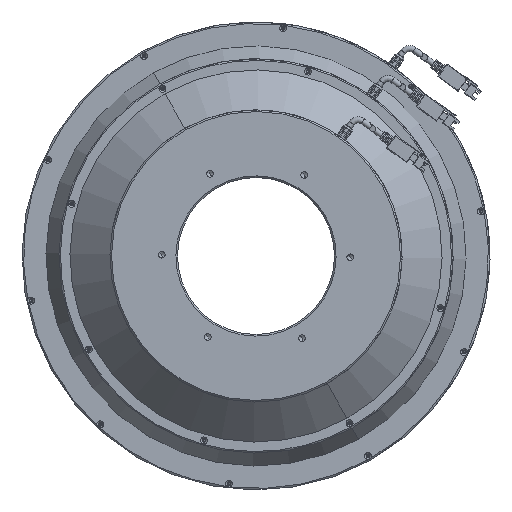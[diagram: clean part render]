
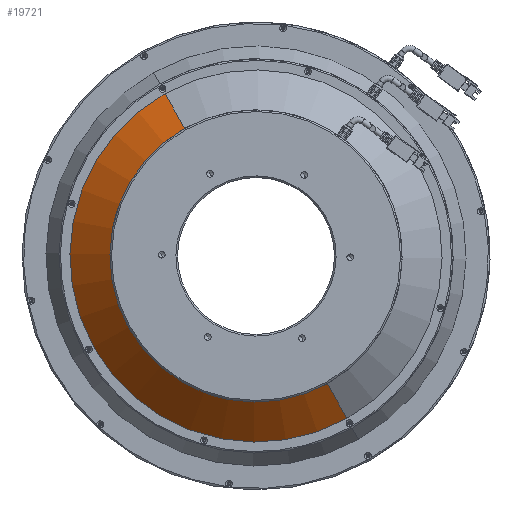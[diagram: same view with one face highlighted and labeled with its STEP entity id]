
A CAD part, front view. The second image highlights one B-rep face of the part: STEP entity #19721.
In plain terms, the highlighted conical face has half-angle 45 degrees and reference radius 93 mm.
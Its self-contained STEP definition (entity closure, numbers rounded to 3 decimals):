
#12 = VECTOR ( 'NONE', #15000, 1000. ) ;
#181 = AXIS2_PLACEMENT_3D ( 'NONE', #3056, #17143, #5074 ) ;
#411 = CARTESIAN_POINT ( 'NONE',  ( 0., 16.1, 93. ) ) ;
#927 = CIRCLE ( 'NONE', #181, 93. ) ;
#1264 = VERTEX_POINT ( 'NONE', #7030 ) ;
#1442 = ORIENTED_EDGE ( 'NONE', *, *, #5570, .F. ) ;
#1592 = VERTEX_POINT ( 'NONE', #411 ) ;
#1690 = CARTESIAN_POINT ( 'NONE',  ( 0., 16.1, 93. ) ) ;
#3024 = CARTESIAN_POINT ( 'NONE',  ( 0., 41.6, -118.5 ) ) ;
#3056 = CARTESIAN_POINT ( 'NONE',  ( 0., 16.1, 0. ) ) ;
#4075 = ORIENTED_EDGE ( 'NONE', *, *, #18520, .F. ) ;
#4859 = CARTESIAN_POINT ( 'NONE',  ( 0., 16.1, -93. ) ) ;
#5074 = DIRECTION ( 'NONE',  ( 0., 0., -1. ) ) ;
#5466 = DIRECTION ( 'NONE',  ( 0., -1., 0. ) ) ;
#5570 = EDGE_CURVE ( 'NONE', #1264, #10375, #21460, .T. ) ;
#6248 = CONICAL_SURFACE ( 'NONE', #8479, 93., 0.785 ) ;
#7030 = CARTESIAN_POINT ( 'NONE',  ( 0., 16.1, -93. ) ) ;
#7813 = DIRECTION ( 'NONE',  ( 0., 0., 1. ) ) ;
#8479 = AXIS2_PLACEMENT_3D ( 'NONE', #19895, #21840, #7813 ) ;
#10375 = VERTEX_POINT ( 'NONE', #3024 ) ;
#12233 = FACE_OUTER_BOUND ( 'NONE', #17383, .T. ) ;
#13822 = ORIENTED_EDGE ( 'NONE', *, *, #21645, .T. ) ;
#15000 = DIRECTION ( 'NONE',  ( 0., 0.707, -0.707 ) ) ;
#15970 = VECTOR ( 'NONE', #19927, 1000. ) ;
#16144 = AXIS2_PLACEMENT_3D ( 'NONE', #17541, #5466, #19579 ) ;
#16929 = CIRCLE ( 'NONE', #16144, 118.5 ) ;
#17143 = DIRECTION ( 'NONE',  ( 0., -1., 0. ) ) ;
#17383 = EDGE_LOOP ( 'NONE', ( #1442, #4075, #20340, #13822 ) ) ;
#17541 = CARTESIAN_POINT ( 'NONE',  ( 0., 41.6, 0. ) ) ;
#18520 = EDGE_CURVE ( 'NONE', #1592, #1264, #927, .T. ) ;
#18614 = VERTEX_POINT ( 'NONE', #23472 ) ;
#19579 = DIRECTION ( 'NONE',  ( 0., 0., -1. ) ) ;
#19721 = ADVANCED_FACE ( 'NONE', ( #12233 ), #6248, .T. ) ;
#19895 = CARTESIAN_POINT ( 'NONE',  ( 0., 16.1, 0. ) ) ;
#19927 = DIRECTION ( 'NONE',  ( 0., 0.707, 0.707 ) ) ;
#20340 = ORIENTED_EDGE ( 'NONE', *, *, #25680, .T. ) ;
#21320 = LINE ( 'NONE', #1690, #15970 ) ;
#21460 = LINE ( 'NONE', #4859, #12 ) ;
#21645 = EDGE_CURVE ( 'NONE', #18614, #10375, #16929, .T. ) ;
#21840 = DIRECTION ( 'NONE',  ( 0., 1., 0. ) ) ;
#23472 = CARTESIAN_POINT ( 'NONE',  ( 0., 41.6, 118.5 ) ) ;
#25680 = EDGE_CURVE ( 'NONE', #1592, #18614, #21320, .T. ) ;
